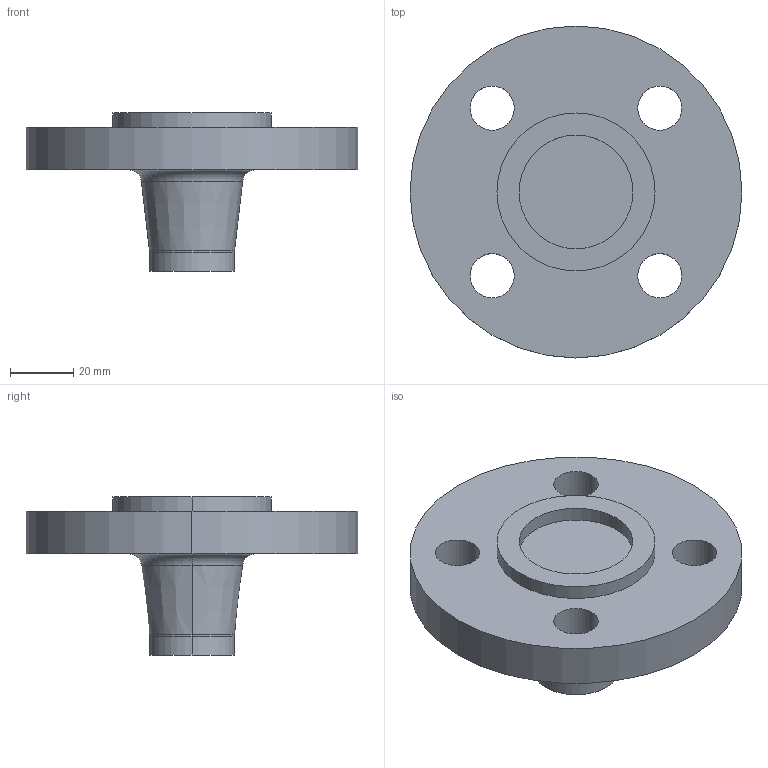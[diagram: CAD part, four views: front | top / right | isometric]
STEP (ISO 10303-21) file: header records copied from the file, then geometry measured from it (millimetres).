
FILE_DESCRIPTION (( 'STEP AP214' ), '1' );
FILE_NAME ('PN40 DN20 Type 21(ii) - Type C Face.STEP', '2018-12-29T16:17:29', ( '' ), ( '' ), 'SwSTEP 2.0', 'SolidWorks 2019', '' );
FILE_SCHEMA (( 'AUTOMOTIVE_DESIGN' ));
Length unit declared in the file: millimetre
Products named in the file (1): PN40 DN20 Type 21(ii) - Type C Face
Bounding box: 105 x 105 x 50 mm (x, y, z)
Volume: 134799.6 mm3; surface area: 26683.7 mm2
Topology: 1 solids, 1 shells, 27 faces, 60 edges, 38 vertices
Faces by surface type: cylinder 16, plane 5, torus 4, cone 2
Entity records: 818 total; most frequent: DIRECTION 158, CARTESIAN_POINT 126, ORIENTED_EDGE 120, AXIS2_PLACEMENT_3D 70, EDGE_CURVE 60, CIRCLE 42, VERTEX_POINT 38, EDGE_LOOP 38
